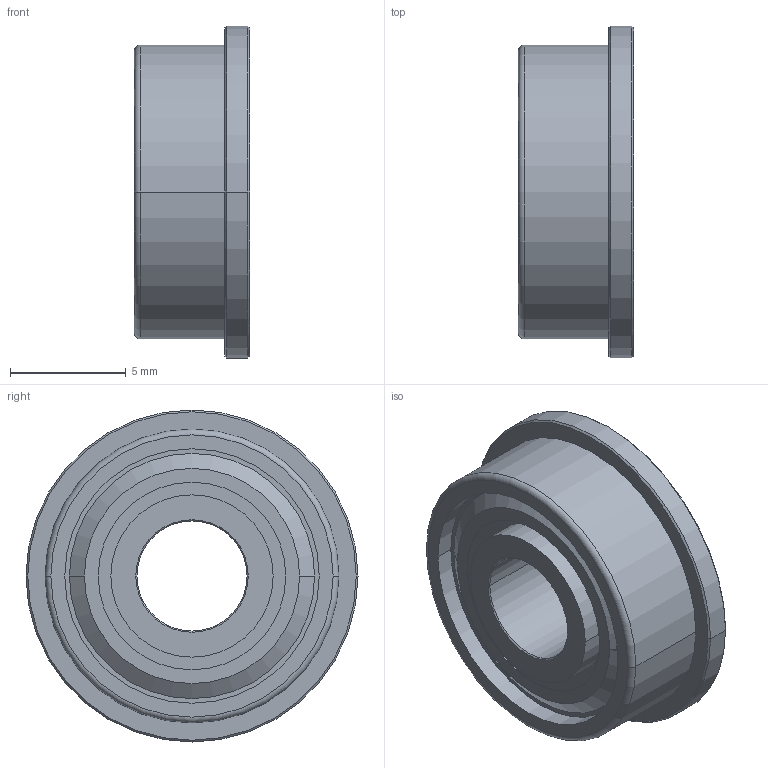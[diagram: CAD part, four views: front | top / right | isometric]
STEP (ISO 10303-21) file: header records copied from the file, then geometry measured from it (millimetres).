
FILE_DESCRIPTION((''),'2;1');
FILE_NAME('38496','2011-01-23T',('carefree'),(''),'PRO/ENGINEER BY PARAMETRIC TECHNOLOGY CORPORATION, 2005030','PRO/ENGINEER BY PARAMETRIC TECHNOLOGY CORPORATION, 2005030','');
FILE_SCHEMA(('CONFIG_CONTROL_DESIGN'));
Length unit declared in the file: inch
Products named in the file (1): 38496
Bounding box: 4.98 x 14.35 x 14.35 mm (x, y, z)
Volume: 440.6 mm3; surface area: 889.3 mm2
Topology: 1 solids, 1 shells, 55 faces, 110 edges, 70 vertices
Faces by surface type: cylinder 22, cone 16, plane 15, torus 2
Entity records: 1500 total; most frequent: DIRECTION 292, CARTESIAN_POINT 235, ORIENTED_EDGE 220, AXIS2_PLACEMENT_3D 127, EDGE_CURVE 110, CIRCLE 72, VERTEX_POINT 70, EDGE_LOOP 70
